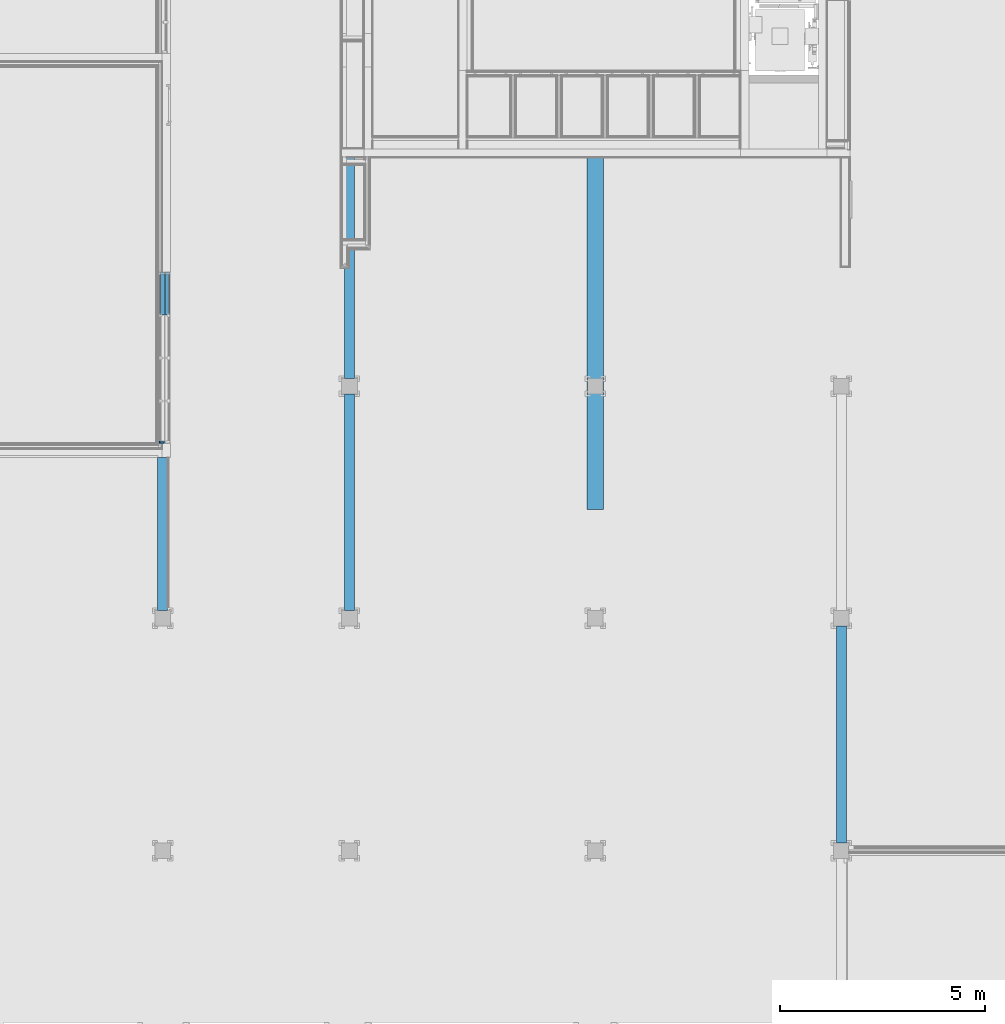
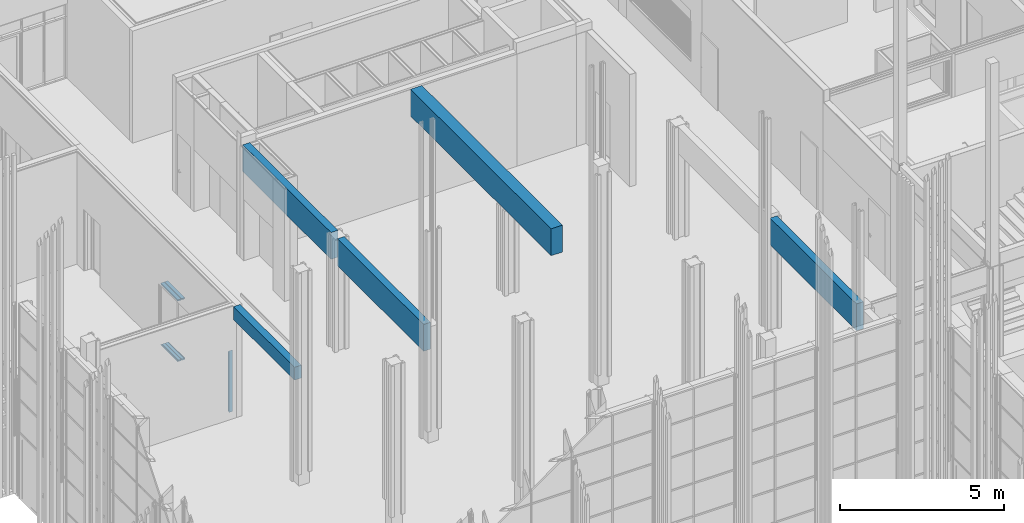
# One storey, part 81 of 260: 5 beams, 5 members, 2 elements without a shape of their own.
"""IFC2X3 building model written with IfcOpenShell, lengths in millimetres."""

from ifc_helpers import new_model, entity, si_unit, converted_unit, derived_unit, money_unit, direction, frame, origin_with_axes, place, context, subcontext, project, spatial, faceted_brep, material, type_object, element, aggregate, save


model = new_model("IFC2X3")

# Units and contexts
model_context = context("Model", 3, precision=0.01, world=origin_with_axes(), true_north=direction((0.0, 1.0)))
body_context = subcontext(model_context, "Body", "Model", "MODEL_VIEW")
ifc_project = project(units=[si_unit("LENGTHUNIT", "METRE", prefix="MILLI"), si_unit("AREAUNIT", "SQUARE_METRE"), si_unit("VOLUMEUNIT", "CUBIC_METRE"), converted_unit("PLANEANGLEUNIT", "DEGREE", entity("IfcPlaneAngleMeasure", 0.0174532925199), si_unit("PLANEANGLEUNIT", "RADIAN"), dimensions=[0, 0, 0, 0, 0, 0, 0]), money_unit("EUR"), converted_unit("TIMEUNIT", "Year", entity("IfcTimeMeasure", 31556926.0), si_unit("TIMEUNIT", "SECOND"), dimensions=[0, 0, 1, 0, 0, 0, 0]), si_unit("MASSUNIT", "GRAM", prefix="KILO"), si_unit("THERMODYNAMICTEMPERATUREUNIT", "DEGREE_CELSIUS"), si_unit("LUMINOUSINTENSITYUNIT", "LUMEN"), si_unit("ENERGYUNIT", "JOULE", prefix="MEGA"), derived_unit("THERMALCONDUCTANCEUNIT", [(si_unit("POWERUNIT", "WATT"), 1), (si_unit("LENGTHUNIT", "METRE"), -1), (si_unit("THERMODYNAMICTEMPERATUREUNIT", "KELVIN"), -1)]), derived_unit("SPECIFICHEATCAPACITYUNIT", [(si_unit("ENERGYUNIT", "JOULE"), 1), (si_unit("MASSUNIT", "GRAM", prefix="KILO"), -1), (si_unit("THERMODYNAMICTEMPERATUREUNIT", "KELVIN"), -1)]), derived_unit("MASSDENSITYUNIT", [(si_unit("MASSUNIT", "GRAM", prefix="KILO"), 1), (si_unit("VOLUMEUNIT", "CUBIC_METRE"), -1)])], contexts=[model_context])

# Site, building, storey
site_placement = place(None, origin_with_axes())
site = spatial("IfcSite", under=ifc_project, at=site_placement, Name="Kolde pst 67a", CompositionType="ELEMENT")
building_placement = place(site_placement, origin_with_axes())
building = spatial("IfcBuilding", under=site, at=building_placement, Name="Riigigümnaasium", CompositionType="ELEMENT")
storey_placement = place(building_placement, origin_with_axes())
storey = spatial("IfcBuildingStorey", under=building, at=storey_placement, Name="1. korrus", CompositionType="ELEMENT", Elevation=0.0)

# Beam
ifc_material_1 = material(Name="_KANDETARIND - liimpuit vastavalt EK osale")
beam_type_1 = type_object("IfcBeamType", Name="_KANDETARIND - liimpuit vastavalt EK osale 400 x 1000", PredefinedType="BEAM")
beam_1_placement = place(storey_placement, frame((42239.99923, 45669.9999598, 3670.0), z_axis=(0.0, 0.0, 1.0), x_axis=(-1.0, 0.0, 0.0)))
element("IfcBeam", 1, at=beam_1_placement, inside=storey, type_object=beam_type_1, material=ifc_material_1, Name="Tala", ObjectType="BEAM", context=body_context, shape_type="Brep", body=[
    faceted_brep([(200.0, 0.0, 500.0), (200.0, 8579.09605681, 500.0), (-200.0, 8579.09605681, 500.0), (-200.0, 0.0, 500.0), (200.0, 0.0, -500.0), (200.0, 8579.09605681, -500.0), (-200.0, 8579.09605681, -500.0), (-200.0, 0.0, -500.0)], [[[0, 1, 2, 3]], [[4, 5, 1, 0]], [[2, 1, 5, 6]], [[3, 2, 6, 7]], [[4, 0, 3, 7]], [[7, 6, 5, 4]]]),
])

# Curtain wall, members
curtain_wall_type = type_object("IfcCurtainWallType", Name="Curtain Wall Type", PredefinedType="NOTDEFINED")
curtain_wall_1_placement = place(storey_placement, frame((31858.898599, 40257.4808267, -3.66549283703e-05), z_axis=(0.0, 0.0, 1.0), x_axis=(1.0, 0.0, 0.0)))
curtain_wall_1 = element("IfcCurtainWall", 2, at=curtain_wall_1_placement, inside=storey, type_object=curtain_wall_type, Name="KLAASSEIN")
ifc_material_2 = material(Name="_METALL - alumiinium")
member_type = type_object("IfcMemberType", Name="Boundary Frame 50 x 120", PredefinedType="MEMBER")
member_1_placement = place(curtain_wall_1_placement, frame((0.0, 1567.5, 0.0), z_axis=(0.0, 1.0, 0.0), x_axis=(0.0, 0.0, 1.0)))
member_1 = element("IfcMember", 3, at=member_1_placement, type_object=member_type, material=ifc_material_2, Name="RF RAAM SERV-200", ObjectType="MEMBER", context=body_context, shape_type="Brep", body=[
    faceted_brep([(30.0, -10.0, 1015.0), (30.0, 10.0, 1015.0), (50.0, 10.0, 995.0), (50.0, 20.0, 995.0), (0.0, 20.0, 1045.0), (0.0, -100.0, 1045.0), (50.0, -100.0, 995.0), (50.0, -10.0, 995.0), (30.0, -10.0, 0.0), (30.0, 10.0, 0.0), (50.0, 10.0, 0.0), (50.0, 20.0, 0.0), (0.0, 20.0, 0.0), (0.0, -100.0, 0.0), (50.0, -100.0, 0.0), (50.0, -10.0, 0.0)], [[[0, 1, 2, 3, 4, 5, 6, 7]], [[1, 0, 8, 9]], [[10, 2, 1, 9]], [[2, 10, 11, 3]], [[12, 4, 3, 11]], [[13, 5, 4, 12]], [[14, 6, 5, 13]], [[15, 7, 6, 14]], [[0, 7, 15, 8]], [[8, 15, 14, 13, 12, 11, 10, 9]]]),
])
member_2_placement = place(curtain_wall_1_placement, frame((0.0, 1567.5, 2300.00020406), z_axis=(0.0, 1.0, 0.0), x_axis=(0.0, 0.0, 1.0)))
member_2 = element("IfcMember", 4, at=member_2_placement, type_object=member_type, material=ifc_material_2, Name="RF RAAM SERV-202", ObjectType="MEMBER", context=body_context, shape_type="Brep", body=[
    faceted_brep([(-30.0, -10.0, 1015.0), (-50.0, -10.0, 995.0), (-50.0, -100.0, 995.0), (0.0, -100.0, 1045.0), (0.0, 20.0, 1045.0), (-50.0, 20.0, 995.0), (-50.0, 10.0, 995.0), (-30.0, 10.0, 1015.0), (-30.0, -10.0, 0.0), (-50.0, -10.0, 0.0), (-50.0, -100.0, 0.0), (0.0, -100.0, 0.0), (0.0, 20.0, 0.0), (-50.0, 20.0, 0.0), (-50.0, 10.0, 0.0), (-30.0, 10.0, 0.0)], [[[0, 1, 2, 3, 4, 5, 6, 7]], [[0, 8, 9, 1]], [[9, 10, 2, 1]], [[10, 11, 3, 2]], [[11, 12, 4, 3]], [[12, 13, 5, 4]], [[6, 5, 13, 14]], [[14, 15, 7, 6]], [[7, 15, 8, 0]], [[8, 15, 14, 13, 12, 11, 10, 9]]]),
])
aggregate(curtain_wall_1, [member_1, member_2])

curtain_wall_2_placement = place(storey_placement, frame((31639.955711, 40257.4808267, -4.08979272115e-05), z_axis=(0.0, 0.0, 1.0), x_axis=(1.0, 0.0, 0.0)))
curtain_wall_2 = element("IfcCurtainWall", 5, at=curtain_wall_2_placement, inside=storey, type_object=curtain_wall_type, Name="KLAASSEIN")
member_3_placement = place(curtain_wall_2_placement, frame((0.0, 1567.5, 2300.00021133), z_axis=(0.0, 1.0, 0.0), x_axis=(0.0, 0.0, 1.0)))
member_3 = element("IfcMember", 6, at=member_3_placement, type_object=member_type, material=ifc_material_2, Name="RF RAAM SERV-120", ObjectType="MEMBER", context=body_context, shape_type="Brep", body=[
    faceted_brep([(-30.0, 10.0, 1014.6772915), (-30.0, -10.0, 1014.6772915), (-50.0, -10.0, 994.677291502), (-50.0, -20.0, 994.677291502), (0.0, -20.0, 1044.6772915), (0.0, 100.0, 1044.6772915), (-50.0, 100.0, 994.677291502), (-50.0, 10.0, 994.677291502), (-30.0, 10.0, 0.0), (-30.0, -10.0, 0.0), (-50.0, -10.0, 0.0), (-50.0, -20.0, 0.0), (0.0, -20.0, 0.0), (0.0, 100.0, 0.0), (-50.0, 100.0, 0.0), (-50.0, 10.0, 0.0)], [[[0, 1, 2, 3, 4, 5, 6, 7]], [[1, 0, 8, 9]], [[10, 2, 1, 9]], [[2, 10, 11, 3]], [[12, 4, 3, 11]], [[13, 5, 4, 12]], [[14, 6, 5, 13]], [[15, 7, 6, 14]], [[0, 7, 15, 8]], [[8, 15, 14, 13, 12, 11, 10, 9]]]),
])
member_4_placement = place(curtain_wall_2_placement, frame((0.0, 1567.5, 0.0), z_axis=(0.0, 1.0, 0.0), x_axis=(0.0, 0.0, 1.0)))
member_4 = element("IfcMember", 7, at=member_4_placement, type_object=member_type, material=ifc_material_2, Name="RF RAAM SERV-118", ObjectType="MEMBER", context=body_context, shape_type="Brep", body=[
    faceted_brep([(30.0, 10.0, 1014.6772915), (50.0, 10.0, 994.677291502), (50.0, 100.0, 994.677291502), (0.0, 100.0, 1044.6772915), (0.0, -20.0, 1044.6772915), (50.0, -20.0, 994.677291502), (50.0, -10.0, 994.677291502), (30.0, -10.0, 1014.6772915), (30.0, 10.0, 0.0), (50.0, 10.0, 0.0), (50.0, 100.0, 0.0), (0.0, 100.0, 0.0), (0.0, -20.0, 0.0), (50.0, -20.0, 0.0), (50.0, -10.0, 0.0), (30.0, -10.0, 0.0)], [[[0, 1, 2, 3, 4, 5, 6, 7]], [[0, 8, 9, 1]], [[9, 10, 2, 1]], [[10, 11, 3, 2]], [[11, 12, 4, 3]], [[12, 13, 5, 4]], [[6, 5, 13, 14]], [[14, 15, 7, 6]], [[7, 15, 8, 0]], [[8, 15, 14, 13, 12, 11, 10, 9]]]),
])
member_5_placement = place(curtain_wall_2_placement, frame((0.0, -1556.49967243, 2300.00021133), z_axis=(0.0, 0.0, -1.0), x_axis=(0.0, 1.0, 0.0)))
member_5 = element("IfcMember", 8, at=member_5_placement, type_object=member_type, material=ifc_material_2, Name="RF RAAM SERV-114", ObjectType="MEMBER", context=body_context, shape_type="Brep", body=[
    faceted_brep([(30.0, 10.0, 2270.00021133), (50.0, 10.0, 2250.00021133), (50.0, 100.0, 2250.00021133), (0.0, 100.0, 2300.00021133), (0.0, -20.0, 2300.00021133), (50.0, -20.0, 2250.00021133), (50.0, -10.0, 2250.00021133), (30.0, -10.0, 2270.00021133), (30.0, 10.0, 30.0), (50.0, 10.0, 50.0), (50.0, 100.0, 50.0), (0.0, 100.0, 0.0), (0.0, -20.0, 0.0), (50.0, -20.0, 50.0), (50.0, -10.0, 50.0), (30.0, -10.0, 30.0)], [[[0, 1, 2, 3, 4, 5, 6, 7]], [[0, 8, 9, 1]], [[9, 10, 2, 1]], [[2, 10, 11, 3]], [[3, 11, 12, 4]], [[4, 12, 13, 5]], [[6, 5, 13, 14]], [[14, 15, 7, 6]], [[7, 15, 8, 0]], [[8, 15, 14, 13, 12, 11, 10, 9]]]),
])
aggregate(curtain_wall_2, [member_3, member_4, member_5])

# Beams
beam_type_2 = type_object("IfcBeamType", Name="_KANDETARIND - liimpuit vastavalt EK osale 240 x 1000", PredefinedType="BEAM")
beam_2_placement = place(storey_placement, frame((48229.9854607, 34249.9999729, 3670.0), z_axis=(0.0, 0.0, 1.0), x_axis=(-1.0, 0.0, 0.0)))
element("IfcBeam", 9, at=beam_2_placement, inside=storey, type_object=beam_type_2, material=ifc_material_1, Name="Tala", ObjectType="BEAM", context=body_context, shape_type="Brep", body=[
    faceted_brep([(120.0, 0.0, 500.0), (120.0, 5280.00027314, 500.0), (-120.0, 5280.00027314, 500.0), (-120.0, 0.0, 500.0), (120.0, 0.0, -500.0), (120.0, 5280.00027314, -500.0), (-120.0, 5280.00027314, -500.0), (-120.0, 0.0, -500.0)], [[[0, 1, 2, 3]], [[4, 5, 1, 0]], [[2, 1, 5, 6]], [[3, 2, 6, 7]], [[4, 0, 3, 7]], [[7, 6, 5, 4]]]),
])
beam_3_placement = place(storey_placement, frame((36249.99923, 45669.9999598, 3670.0), z_axis=(0.0, 0.0, 1.0), x_axis=(-1.0, 0.0, 0.0)))
element("IfcBeam", 10, at=beam_3_placement, inside=storey, type_object=beam_type_2, material=ifc_material_1, Name="Tala", ObjectType="BEAM", context=body_context, shape_type="Brep", body=[
    faceted_brep([(120.0, 0.0, 500.0), (120.0, 5390.00004306, 500.0), (-120.0, 5390.00004306, 500.0), (-120.0, 0.0, 500.0), (120.0, 0.0, -500.0), (120.0, 5390.00004306, -500.0), (-120.0, 5390.00004306, -500.0), (-120.0, 0.0, -500.0)], [[[0, 1, 2, 3]], [[4, 5, 1, 0]], [[2, 1, 5, 6]], [[3, 2, 6, 7]], [[4, 0, 3, 7]], [[7, 6, 5, 4]]]),
])
beam_4_placement = place(storey_placement, frame((36249.9992291, 39899.9999168, 3670.0), z_axis=(0.0, 0.0, 1.0), x_axis=(-1.0, 0.0, 0.0)))
element("IfcBeam", 11, at=beam_4_placement, inside=storey, type_object=beam_type_2, material=ifc_material_1, Name="Tala", ObjectType="BEAM", context=body_context, shape_type="Brep", body=[
    faceted_brep([(120.0, 0.0, 500.0), (120.0, 5269.99994389, 500.0), (-120.0, 5269.99994389, 500.0), (-120.0, 0.0, 500.0), (120.0, 0.0, -500.0), (120.0, 5269.99994389, -500.0), (-120.0, 5269.99994389, -500.0), (-120.0, 0.0, -500.0)], [[[0, 1, 2, 3]], [[4, 5, 1, 0]], [[2, 1, 5, 6]], [[3, 2, 6, 7]], [[4, 0, 3, 7]], [[7, 6, 5, 4]]]),
])
beam_type_3 = type_object("IfcBeamType", Name="_KANDETARIND - liimpuit vastavalt EK osale 240 x 480", PredefinedType="BEAM")
beam_5_placement = place(storey_placement, frame((31700.0027803, 38359.9808267, 3930.0), z_axis=(0.0, 0.0, 1.0), x_axis=(-1.0, 0.0, 0.0)))
element("IfcBeam", 12, at=beam_5_placement, inside=storey, type_object=beam_type_3, material=ifc_material_1, Name="Tala", ObjectType="BEAM", context=body_context, shape_type="Brep", body=[
    faceted_brep([(120.0, 0.0, 240.0), (120.0, 3729.98575238, 240.0), (-120.0, 3729.98575238, 240.0), (-120.0, 0.0, 240.0), (120.0, 0.0, -240.0), (120.0, 3729.98575238, -240.0), (-120.0, 3729.98575238, -240.0), (-120.0, 0.0, -240.0)], [[[0, 1, 2, 3]], [[4, 5, 1, 0]], [[2, 1, 5, 6]], [[3, 2, 6, 7]], [[4, 0, 3, 7]], [[7, 6, 5, 4]]]),
])

save(model, "model.ifc")
